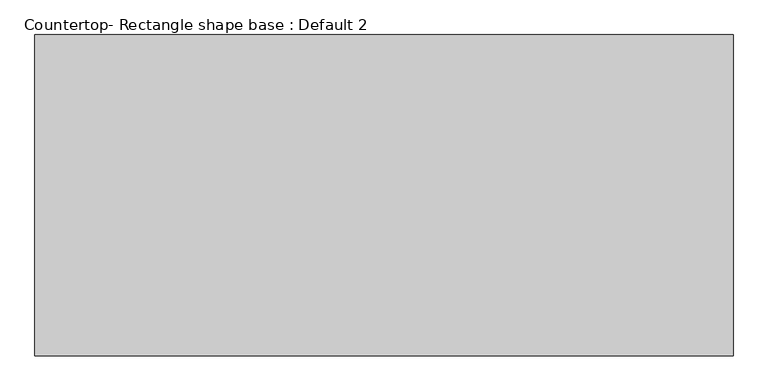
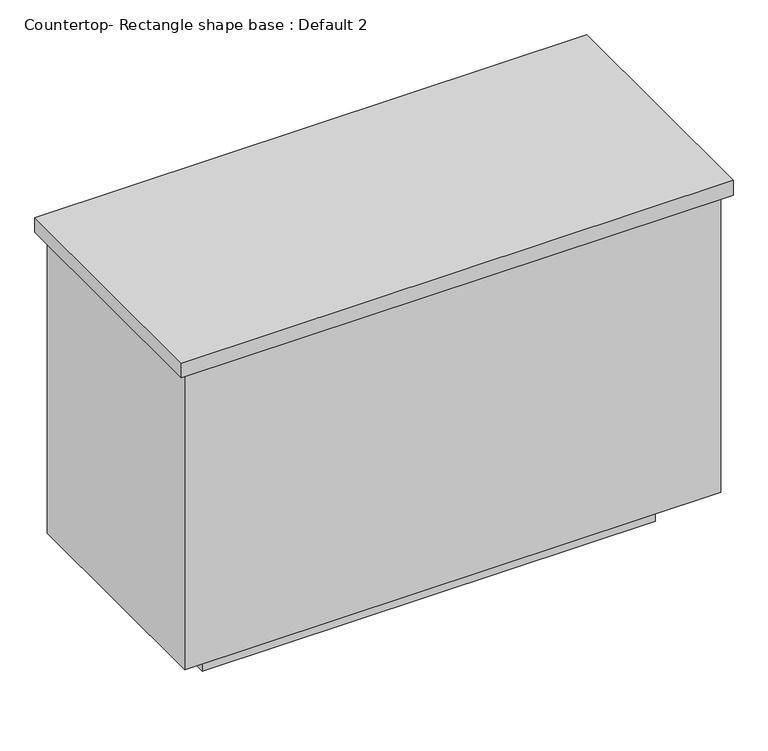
"""IFC4 building model written with IfcOpenShell, lengths in millimetres: proxy geometry, Countertop- Rectangle shape base : Default 2."""

from ifc_helpers import new_model, si_unit, frame, origin, origin_with_axes, place, context, project, spatial, polyline, outline, extrude, source, transform, mapped, element, save


def countertop_rectangle_shape_base_default_2_4a08ce68(model_context):
    return source(origin(), model_context, "Body", "SweptSolid", [
        extrude(outline(polyline([(85.72515, 69.85), (85.72515, 692.15), (1438.27485, 692.15), (1438.27485, 69.85), (85.72515, 69.85)])), frame((0.0, 0.0, 876.3), z_axis=(0.0, 0.0, 1.0), x_axis=(1.0, 0.0, 0.0)), (0.0, 0.0, 1.0), 38.1),
        extrude(outline(polyline([(1419.22485, 673.1), (1419.22485, 88.9), (104.77515, 88.9), (104.77515, 673.1), (1419.22485, 673.1)])), frame((0.0, 0.0, 101.6), z_axis=(0.0, 0.0, 1.0), x_axis=(1.0, 0.0, 0.0)), (0.0, 0.0, 1.0), 774.7),
        extrude(outline(polyline([(1317.62485, 571.5), (1317.62485, 190.5), (206.37515, 190.5), (206.37515, 571.5), (1317.62485, 571.5)])), origin_with_axes(), (0.0, 0.0, 1.0), 101.6),
    ])


if __name__ == "__main__":
    model = new_model("IFC4")
    model_context = context("Model", 3, world=origin())
    ifc_project = project(units=[si_unit("LENGTHUNIT", "METRE", prefix="MILLI")], contexts=[model_context])
    site = spatial("IfcSite", under=ifc_project)
    building = spatial("IfcBuilding", under=site)
    placement = place(None, origin())
    countertop_rectangle_shape_base_default_2_shape = countertop_rectangle_shape_base_default_2_4a08ce68(model_context)
    element("IfcBuildingElementProxy", 1, Name="Countertop- Rectangle shape base : Default 2", ObjectType="Countertop- Rectangle shape base : Default 2", at=placement, inside=building, context=model_context, shape_type="MappedRepresentation", body=[
        mapped(countertop_rectangle_shape_base_default_2_shape, transform((0.0, 0.0, 0.0), x_axis=(1.0, 0.0, 0.0), y_axis=(0.0, 1.0, 0.0), z_axis=(0.0, 0.0, 1.0))),
    ])
    save(model, "model.ifc")
